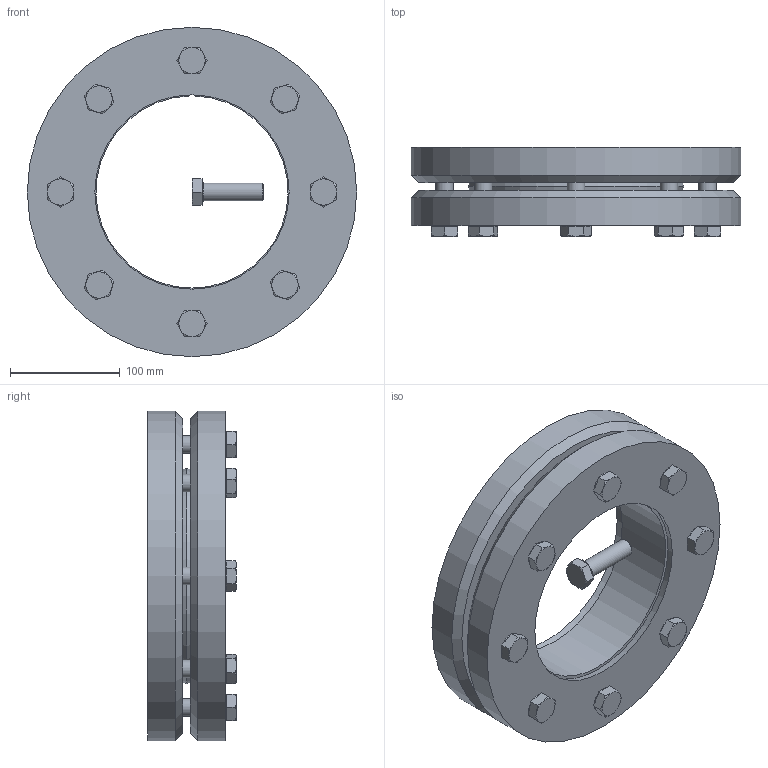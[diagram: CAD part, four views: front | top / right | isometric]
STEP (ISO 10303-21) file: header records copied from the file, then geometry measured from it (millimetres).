
FILE_DESCRIPTION( ( 'Unknown' ), '1' );
FILE_NAME( 'C:/Dokumente und Einstellungen/Sven/Desktop/homepage/cad - homepage/KBS19/KBS 19 - 175 x 300.stp', 'Unknown', ( 'Unknown' ), ( 'Unknown' ), 'XStep 1.0', 'Unknown', ' ' );
FILE_SCHEMA( ( 'automotive_design' ) );
Length unit declared in the file: millimetre
Products named in the file (3): Assem1; KBS 19 - 175 x 300; ISO 4017 - M16 x 55-N
Bounding box: 300 x 81 x 300 mm (x, y, z)
Volume: 5860935.4 mm3; surface area: 629549.3 mm2
Topology: 11 solids, 11 shells, 303 faces, 706 edges, 434 vertices
Faces by surface type: plane 163, cone 75, cylinder 56, torus 9
Full cylindrical faces by diameter (mm): 16 x41, 24 x9, 300 x4
Entity records: 2232 total; most frequent: CARTESIAN_POINT 365, DIRECTION 326, ORIENTED_EDGE 252, AXIS2_PLACEMENT_3D 142, EDGE_LOOP 127, EDGE_CURVE 126, VERTEX_POINT 93, FACE_OUTER_BOUND 85
